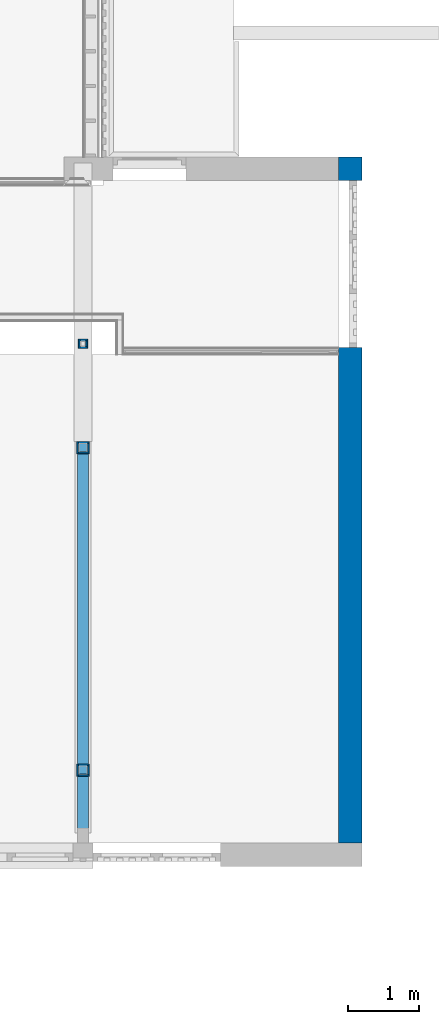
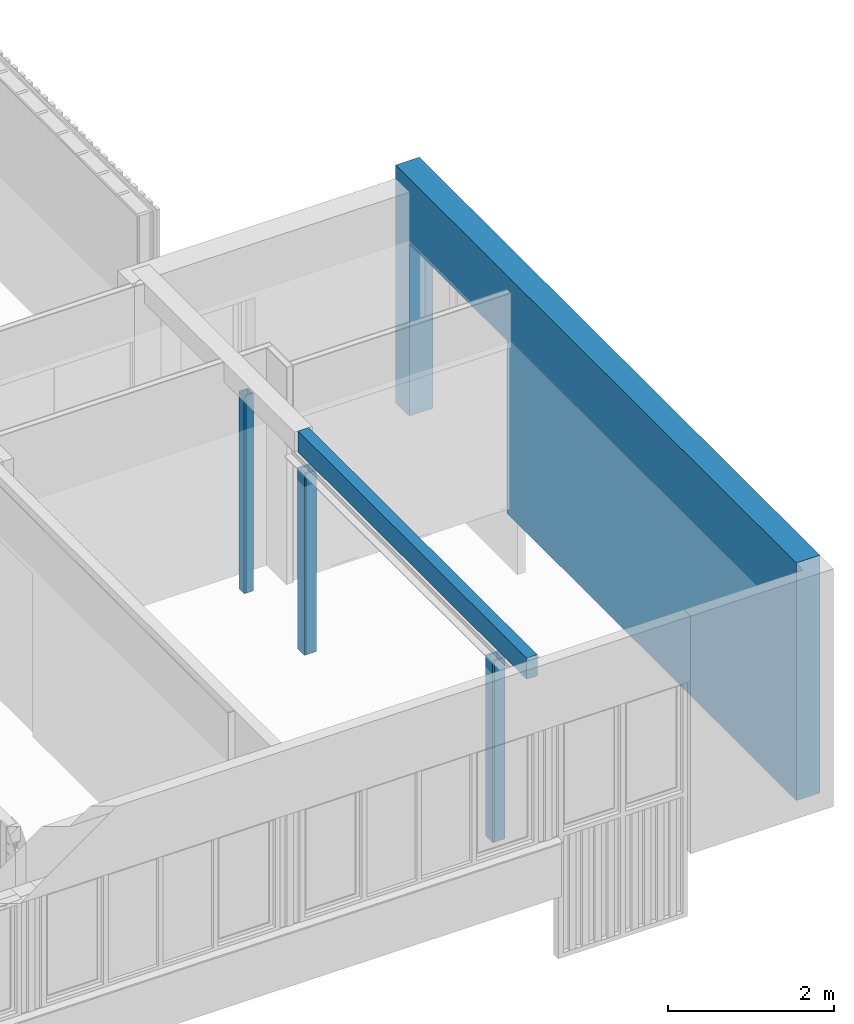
# One storey, part 52 of 99: 14 walls, 1 opening.
"""IFC2X3 building model written with IfcOpenShell, lengths in millimetres."""

from ifc_helpers import new_model, entity, si_unit, converted_unit, derived_unit, money_unit, direction, frame, origin_with_axes, place, context, subcontext, project, spatial, faceted_brep, material, type_object, element, save


model = new_model("IFC2X3")

# Units and contexts
model_context = context("Model", 3, precision=0.01, world=origin_with_axes(), true_north=direction((0.0, 1.0)))
body_context = subcontext(model_context, "Body", "Model", "MODEL_VIEW")
ifc_project = project(units=[si_unit("LENGTHUNIT", "METRE", prefix="MILLI"), si_unit("AREAUNIT", "SQUARE_METRE"), si_unit("VOLUMEUNIT", "CUBIC_METRE"), converted_unit("PLANEANGLEUNIT", "DEGREE", entity("IfcPlaneAngleMeasure", 0.0174532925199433), si_unit("PLANEANGLEUNIT", "RADIAN"), dimensions=[0, 0, 0, 0, 0, 0, 0]), money_unit("EUR"), converted_unit("TIMEUNIT", "Year", entity("IfcTimeMeasure", 31557600.0), si_unit("TIMEUNIT", "SECOND"), dimensions=[0, 0, 1, 0, 0, 0, 0]), si_unit("MASSUNIT", "GRAM", prefix="KILO"), si_unit("THERMODYNAMICTEMPERATUREUNIT", "DEGREE_CELSIUS"), si_unit("LUMINOUSINTENSITYUNIT", "LUMEN"), si_unit("ENERGYUNIT", "JOULE", prefix="MEGA"), derived_unit("THERMALCONDUCTANCEUNIT", [(si_unit("POWERUNIT", "WATT"), 1), (si_unit("LENGTHUNIT", "METRE"), -1), (si_unit("THERMODYNAMICTEMPERATUREUNIT", "KELVIN"), -1)]), derived_unit("SPECIFICHEATCAPACITYUNIT", [(si_unit("ENERGYUNIT", "JOULE"), 1), (si_unit("MASSUNIT", "GRAM", prefix="KILO"), -1), (si_unit("THERMODYNAMICTEMPERATUREUNIT", "KELVIN"), -1)]), derived_unit("MASSDENSITYUNIT", [(si_unit("MASSUNIT", "GRAM", prefix="KILO"), 1), (si_unit("VOLUMEUNIT", "CUBIC_METRE"), -1)])], contexts=[model_context])

# Site, building, storey
site_placement = place(None, origin_with_axes())
site = spatial("IfcSite", under=ifc_project, at=site_placement, Name="Site", CompositionType="ELEMENT")
building_placement = place(site_placement, origin_with_axes())
building = spatial("IfcBuilding", under=site, at=building_placement, Name="Naam gebouw", CompositionType="ELEMENT")
storey_placement = place(building_placement, frame((0.0, 0.0, 7650.0), z_axis=(0.0, 0.0, 1.0), x_axis=(1.0, 0.0, 0.0)))
storey = spatial("IfcBuildingStorey", under=building, at=storey_placement, Name="2e verdieping N", CompositionType="ELEMENT", Elevation=7650.0)

# Wall, opening
ifc_material_1 = material(Name="ALG - CONSTRUCTIEF")
wall_type_1 = type_object("IfcWallType", Name="ALG - CONSTRUCTIEF 330", PredefinedType="NOTDEFINED")
wall_1_placement = place(storey_placement, frame((57599.99999999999, 20655.9124251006, -99.99999999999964), z_axis=(0.0, 0.0, 1.0), x_axis=(0.0, -1.0, 0.0)))
wall_1 = element("IfcWall", 1, at=wall_1_placement, inside=storey, type_object=wall_type_1, material=ifc_material_1, Name="_Wand-x", context=body_context, shape_type="Brep", body=[
    faceted_brep([(2684.999999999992, 329.9999999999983, 2540.000000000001), (2684.999999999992, 0.0, 2540.000000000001), (329.9999999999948, 0.0, 2540.000000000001), (329.9999999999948, 329.9999999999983, 2540.000000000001), (2684.999999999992, 259.999999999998, 0.0), (2684.999999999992, 0.0, 0.0), (2684.999999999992, 329.9999999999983, 0.0), (9664.999999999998, 0.0, 0.0), (9664.999999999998, 0.0, 3500.0), (0.0, 0.0, 3500.0), (0.0, 0.0, 3300.00002384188), (0.0, 0.0, 0.0), (329.9999999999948, 0.0, 0.0), (329.9999999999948, 259.999999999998, 0.0), (329.9999999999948, 329.9999999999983, 0.0), (0.0, 329.9999999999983, 3500.0), (9664.999999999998, 329.9999999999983, 3500.0), (9664.999999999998, 329.9999999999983, 0.0), (0.0, 329.9999999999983, 0.0), (0.0, 329.9999999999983, 3300.00002384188)], [[[0, 1, 2, 3]], [[4, 5, 1, 0, 6]], [[1, 5, 7, 8, 9, 10, 11, 12, 2]], [[3, 2, 12, 13, 14]], [[15, 16, 17, 6, 0, 3, 14, 18, 19]], [[5, 4, 6, 17, 7]], [[16, 8, 7, 17]], [[15, 9, 8, 16]], [[18, 11, 10, 9, 15, 19]], [[13, 12, 11, 18, 14]]]),
])
opening_placement = place(wall_1_placement, frame((1507.499999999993, 0.0, -959.9999999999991), z_axis=(0.0, 0.0, 1.0), x_axis=(1.0, 0.0, 0.0)))
element("IfcOpeningElement", 2, at=opening_placement, cuts=wall_1, Name="_Merk-054", context=body_context, shape_type="Brep", body=[
    faceted_brep([(-1177.499999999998, 259.999999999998, 0.0), (-1177.499999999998, 259.999999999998, 3500.0), (-1177.499999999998, 330.999999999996, 3500.0), (-1177.499999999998, 330.999999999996, 0.0), (-1177.499999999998, -0.9999999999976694, 0.0), (-1177.499999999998, -0.9999999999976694, 3500.0), (1177.499999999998, 259.999999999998, 3500.0), (1177.499999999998, 330.999999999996, 3500.0), (1177.499999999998, -0.9999999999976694, 3500.0), (1177.499999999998, 330.999999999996, 0.0), (1177.499999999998, 259.999999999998, 0.0), (1177.499999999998, -0.9999999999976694, 0.0)], [[[0, 1, 2, 3]], [[1, 0, 4, 5]], [[6, 7, 2, 1, 5, 8]], [[7, 9, 3, 2]], [[0, 3, 9, 10, 11, 4]], [[5, 4, 11, 8]], [[6, 10, 9, 7]], [[10, 6, 8, 11]]]),
])

# Walls
ifc_material_2 = material(Name="Gipsplaat")
wall_type_2 = type_object("IfcWallType", Name="Gipsplaat 25", PredefinedType="NOTDEFINED")
wall_2_placement = place(storey_placement, frame((54085.0, 16475.9124251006, 0.0), z_axis=(0.0, 0.0, 1.0), x_axis=(0.0, 1.0, 0.0)))
element("IfcWall", 3, at=wall_2_placement, inside=storey, type_object=wall_type_2, material=ifc_material_2, Name="_Wand-x", context=body_context, shape_type="Brep", body=[
    faceted_brep([(145.0000000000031, 25.00000000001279, 0.0), (145.0000000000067, 0.0, 0.0), (24.99999999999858, 0.0, 0.0), (24.99999999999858, 24.99999999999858, 0.0), (145.0000000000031, 25.00000000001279, 2669.997805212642), (145.0000000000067, 0.0, 2669.997805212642), (24.99999999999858, 0.0, 2669.997805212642), (24.99999999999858, 24.99999999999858, 2669.997805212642)], [[[0, 1, 2, 3]], [[1, 0, 4, 5]], [[1, 5, 6, 2]], [[7, 3, 2, 6]], [[4, 0, 3, 7]], [[5, 4, 7, 6]]]),
])
for number, where, z_axis, x_axis, name in (
    (4, (53915.00000000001, 11930.91242510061, 0.0), (0.0, 0.0, 1.0), (0.0, 1.0, 0.0), "_Wand-x"),
    (5, (53915.00000000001, 16475.91242510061, 0.0), (0.0, 0.0, 1.0), (0.0, 1.0, 0.0), "_Wand-x"),
):
    element("IfcWall", number, at=place(storey_placement, frame(where, z_axis=z_axis, x_axis=x_axis)), inside=storey, type_object=wall_type_2, material=ifc_material_2, Name=name, context=body_context, shape_type="Brep", body=[
        faceted_brep([(169.999999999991, -24.99999999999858, 2669.997805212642), (169.999999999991, 0.0, 2669.997805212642), (0.0, 0.0, 2669.997805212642), (0.0, -24.99999999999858, 2669.997805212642), (169.999999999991, -24.99999999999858, 0.0), (169.999999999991, 0.0, 0.0), (0.0, 0.0, 0.0), (0.0, -24.99999999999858, 0.0)], [[[0, 1, 2, 3]], [[1, 0, 4, 5]], [[1, 5, 6, 2]], [[7, 3, 2, 6]], [[4, 0, 3, 7]], [[5, 4, 7, 6]]]),
    ])
wall_3_placement = place(storey_placement, frame((54085.0, 11930.9124251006, 0.0), z_axis=(0.0, 0.0, 1.0), x_axis=(0.0, 1.0, 0.0)))
element("IfcWall", 6, at=wall_3_placement, inside=storey, type_object=wall_type_2, material=ifc_material_2, Name="_Wand-x", context=body_context, shape_type="Brep", body=[
    faceted_brep([(145.0000000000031, 25.00000000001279, 0.0), (145.0000000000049, 0.0, 0.0), (25.00000000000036, 0.0, 0.0), (25.00000000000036, 25.00000000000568, 0.0), (145.0000000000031, 25.00000000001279, 2669.997805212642), (145.0000000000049, 0.0, 2669.997805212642), (25.00000000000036, 0.0, 2669.997805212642), (25.00000000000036, 25.00000000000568, 2669.997805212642)], [[[0, 1, 2, 3]], [[1, 0, 4, 5]], [[1, 5, 6, 2]], [[7, 3, 2, 6]], [[4, 0, 3, 7]], [[5, 4, 7, 6]]]),
])
wall_4_placement = place(storey_placement, frame((53915.00000000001, 12100.9124251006, 0.0), z_axis=(0.0, 0.0, 1.0), x_axis=(1.0, 0.0, 0.0)))
element("IfcWall", 7, at=wall_4_placement, inside=storey, type_object=wall_type_2, material=ifc_material_2, Name="_Wand-x", context=body_context, shape_type="Brep", body=[
    faceted_brep([(170.0000000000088, -25.00000000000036, 2669.997805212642), (170.0000000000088, 0.0, 2669.997805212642), (24.99999999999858, 0.0, 2669.997805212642), (24.99999999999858, -25.00000000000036, 2669.997805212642), (170.0000000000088, -25.00000000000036, 0.0), (170.0000000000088, 0.0, 0.0), (24.99999999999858, 0.0, 0.0), (24.99999999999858, -25.00000000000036, 0.0)], [[[0, 1, 2, 3]], [[1, 0, 4, 5]], [[1, 5, 6, 2]], [[7, 3, 2, 6]], [[4, 0, 3, 7]], [[5, 4, 7, 6]]]),
])
wall_5_placement = place(storey_placement, frame((53915.00000000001, 16645.9124251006, 0.0), z_axis=(0.0, 0.0, 1.0), x_axis=(1.0, 0.0, 0.0)))
element("IfcWall", 8, at=wall_5_placement, inside=storey, type_object=wall_type_2, material=ifc_material_2, Name="_Wand-x", context=body_context, shape_type="Brep", body=[
    faceted_brep([(170.0000000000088, -24.99999999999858, 2669.997805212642), (170.0000000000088, 0.0, 2669.997805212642), (24.99999999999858, 0.0, 2669.997805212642), (24.99999999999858, -24.99999999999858, 2669.997805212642), (170.0000000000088, -24.99999999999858, 0.0), (170.0000000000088, 0.0, 0.0), (24.99999999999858, 0.0, 0.0), (24.99999999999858, -24.99999999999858, 0.0)], [[[0, 1, 2, 3]], [[1, 0, 4, 5]], [[1, 5, 6, 2]], [[7, 3, 2, 6]], [[4, 0, 3, 7]], [[5, 4, 7, 6]]]),
])
wall_6_placement = place(storey_placement, frame((53915.00000000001, 11930.91242510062, 0.0), z_axis=(0.0, 0.0, 1.0), x_axis=(1.0, 0.0, 0.0)))
element("IfcWall", 9, at=wall_6_placement, inside=storey, type_object=wall_type_2, material=ifc_material_2, Name="_Wand-x", context=body_context, shape_type="Brep", body=[
    faceted_brep([(169.9999999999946, 25.00000000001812, 0.0), (169.9999999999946, 0.0, 0.0), (24.99999999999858, 0.0, 0.0), (24.99999999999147, 25.00000000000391, 0.0), (169.9999999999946, 25.00000000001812, 2669.997805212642), (169.9999999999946, 0.0, 2669.997805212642), (24.99999999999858, 0.0, 2669.997805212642), (24.99999999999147, 25.00000000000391, 2669.997805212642)], [[[0, 1, 2, 3]], [[1, 0, 4, 5]], [[1, 5, 6, 2]], [[7, 3, 2, 6]], [[4, 0, 3, 7]], [[5, 4, 7, 6]]]),
])
wall_7_placement = place(storey_placement, frame((53915.00000000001, 16475.91242510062, 0.0), z_axis=(0.0, 0.0, 1.0), x_axis=(1.0, 0.0, 0.0)))
element("IfcWall", 10, at=wall_7_placement, inside=storey, type_object=wall_type_2, material=ifc_material_2, Name="_Wand-x", context=body_context, shape_type="Brep", body=[
    faceted_brep([(169.9999999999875, 25.00000000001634, 0.0), (169.9999999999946, 0.0, 0.0), (24.99999999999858, 0.0, 0.0), (24.99999999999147, 24.99999999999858, 0.0), (169.9999999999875, 25.00000000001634, 2669.997805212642), (169.9999999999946, 0.0, 2669.997805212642), (24.99999999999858, 0.0, 2669.997805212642), (24.99999999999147, 24.99999999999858, 2669.997805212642)], [[[0, 1, 2, 3]], [[1, 0, 4, 5]], [[1, 5, 6, 2]], [[7, 3, 2, 6]], [[4, 0, 3, 7]], [[5, 4, 7, 6]]]),
])
wall_8_placement = place(storey_placement, frame((54065.00000000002, 17960.91242510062, 0.0), z_axis=(0.0, 0.0, 1.0), x_axis=(0.0, 1.0, 0.0)))
element("IfcWall", 11, at=wall_8_placement, inside=storey, type_object=wall_type_2, material=ifc_material_2, Name="_Wand-x", context=body_context, shape_type="Brep", body=[
    faceted_brep([(104.9999999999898, 24.99999999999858, 0.0), (104.9999999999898, 24.99999999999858, 2909.997805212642), (104.9999999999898, 0.0, 2909.997805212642), (104.9999999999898, 0.0, 0.0), (24.99999999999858, 24.99999999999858, 0.0), (24.99999999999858, 24.99999999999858, 2909.997805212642), (24.99999999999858, 0.0, 2909.997805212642), (24.99999999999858, 0.0, 0.0)], [[[0, 1, 2, 3]], [[4, 5, 1, 0]], [[5, 6, 2, 1]], [[3, 2, 6, 7]], [[4, 0, 3, 7]], [[7, 6, 5, 4]]]),
])
wall_9_placement = place(storey_placement, frame((53935.00000000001, 17960.91242510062, 0.0), z_axis=(0.0, 0.0, 1.0), x_axis=(1.0, 0.0, 0.0)))
element("IfcWall", 12, at=wall_9_placement, inside=storey, type_object=wall_type_2, material=ifc_material_2, Name="_Wand-x", context=body_context, shape_type="Brep", body=[
    faceted_brep([(24.99999999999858, 24.99999999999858, 0.0), (24.99999999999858, 24.99999999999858, 2909.997805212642), (130.0000000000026, 24.99999999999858, 2909.997805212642), (130.0000000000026, 24.99999999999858, 0.0), (24.99999999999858, 0.0, 0.0), (24.99999999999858, 0.0, 2909.997805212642), (130.0000000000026, 0.0, 2909.997805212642), (130.0000000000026, 0.0, 0.0)], [[[0, 1, 2, 3]], [[4, 5, 1, 0]], [[5, 6, 2, 1]], [[3, 2, 6, 7]], [[0, 3, 7, 4]], [[7, 6, 5, 4]]]),
])
wall_10_placement = place(storey_placement, frame((53935.00000000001, 18090.9124251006, 0.0), z_axis=(0.0, 0.0, 1.0), x_axis=(1.0, 0.0, 0.0)))
element("IfcWall", 13, at=wall_10_placement, inside=storey, type_object=wall_type_2, material=ifc_material_2, Name="_Wand-x", context=body_context, shape_type="Brep", body=[
    faceted_brep([(24.99999999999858, 0.0, 0.0), (24.99999999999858, 0.0, 2909.997805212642), (130.0000000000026, 0.0, 2909.997805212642), (130.0000000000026, 0.0, 0.0), (24.99999999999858, -24.99999999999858, 0.0), (24.99999999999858, -24.99999999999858, 2909.997805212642), (130.0000000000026, -24.99999999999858, 2909.997805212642), (130.0000000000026, -24.99999999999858, 0.0)], [[[0, 1, 2, 3]], [[4, 5, 1, 0]], [[5, 6, 2, 1]], [[3, 2, 6, 7]], [[0, 3, 7, 4]], [[7, 6, 5, 4]]]),
])
wall_11_placement = place(storey_placement, frame((53935.00000000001, 17960.91242510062, 0.0), z_axis=(0.0, 0.0, 1.0), x_axis=(0.0, 1.0, 0.0)))
element("IfcWall", 14, at=wall_11_placement, inside=storey, type_object=wall_type_2, material=ifc_material_2, Name="_Wand-x", context=body_context, shape_type="Brep", body=[
    faceted_brep([(129.9999999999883, 0.0, 0.0), (129.9999999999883, 0.0, 2909.997805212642), (129.9999999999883, -24.99999999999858, 2909.997805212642), (129.9999999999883, -24.99999999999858, 0.0), (0.0, 0.0, 0.0), (0.0, 0.0, 2909.997805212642), (0.0, -24.99999999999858, 2909.997805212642), (0.0, -24.99999999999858, 0.0)], [[[0, 1, 2, 3]], [[4, 5, 1, 0]], [[5, 6, 2, 1]], [[3, 2, 6, 7]], [[4, 0, 3, 7]], [[7, 6, 5, 4]]]),
])
ifc_material_3 = material(Name="Steen - Betonblok")
wall_type_3 = type_object("IfcWallType", Name="Steen - Betonblok 150", PredefinedType="NOTDEFINED")
wall_12_placement = place(storey_placement, frame((54000.0, 16645.91242510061, 2889.997805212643), z_axis=(0.0, 0.0, 1.0), x_axis=(0.0, -1.0, 0.0)))
element("IfcWall", 15, at=wall_12_placement, inside=storey, type_object=wall_type_3, material=ifc_material_3, Name="_Wand-x", context=body_context, shape_type="Brep", body=[
    faceted_brep([(0.0, 75.00000000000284, 310.0021947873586), (0.0, -75.00000000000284, 310.0021947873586), (5515.000000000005, -75.00000000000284, 310.0021947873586), (5515.000000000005, 75.00000000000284, 310.0021947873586), (0.0, 75.00000000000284, 0.0), (0.0, -75.00000000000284, 0.0), (5515.000000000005, -75.00000000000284, 0.0), (5515.000000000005, 75.00000000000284, 0.0)], [[[0, 1, 2, 3]], [[4, 5, 1, 0]], [[1, 5, 6, 2]], [[7, 3, 2, 6]], [[4, 0, 3, 7]], [[5, 4, 7, 6]]]),
])

save(model, "model.ifc")
